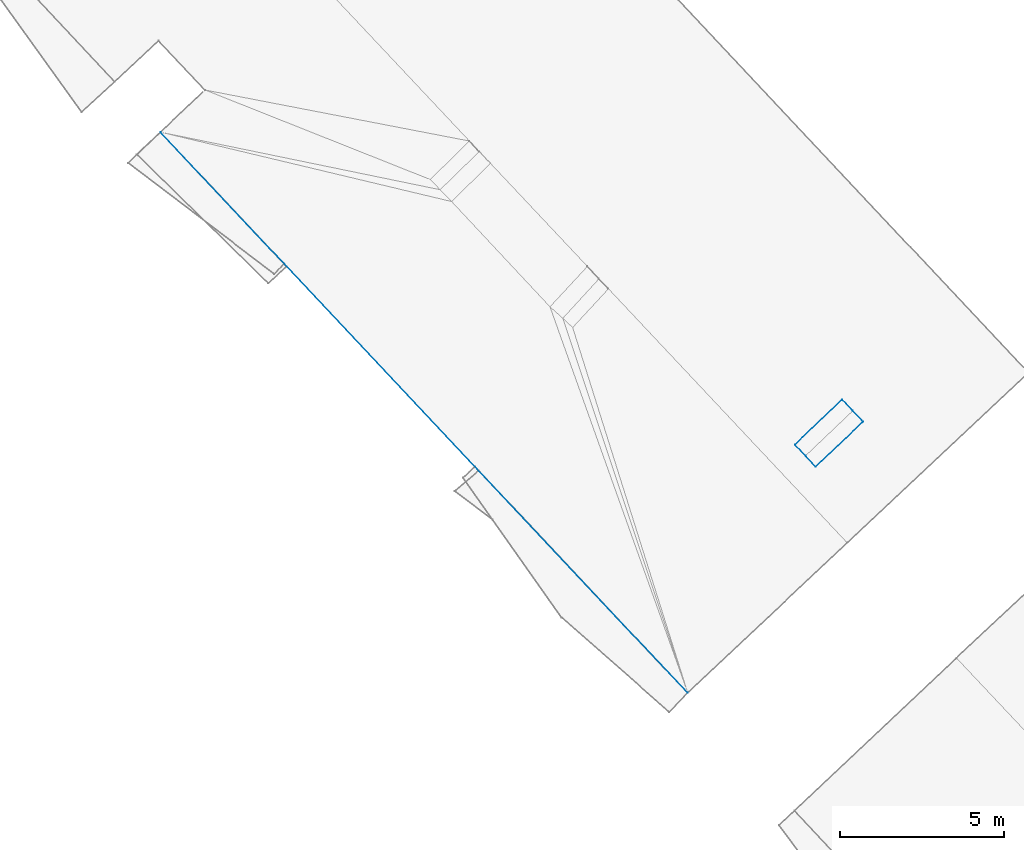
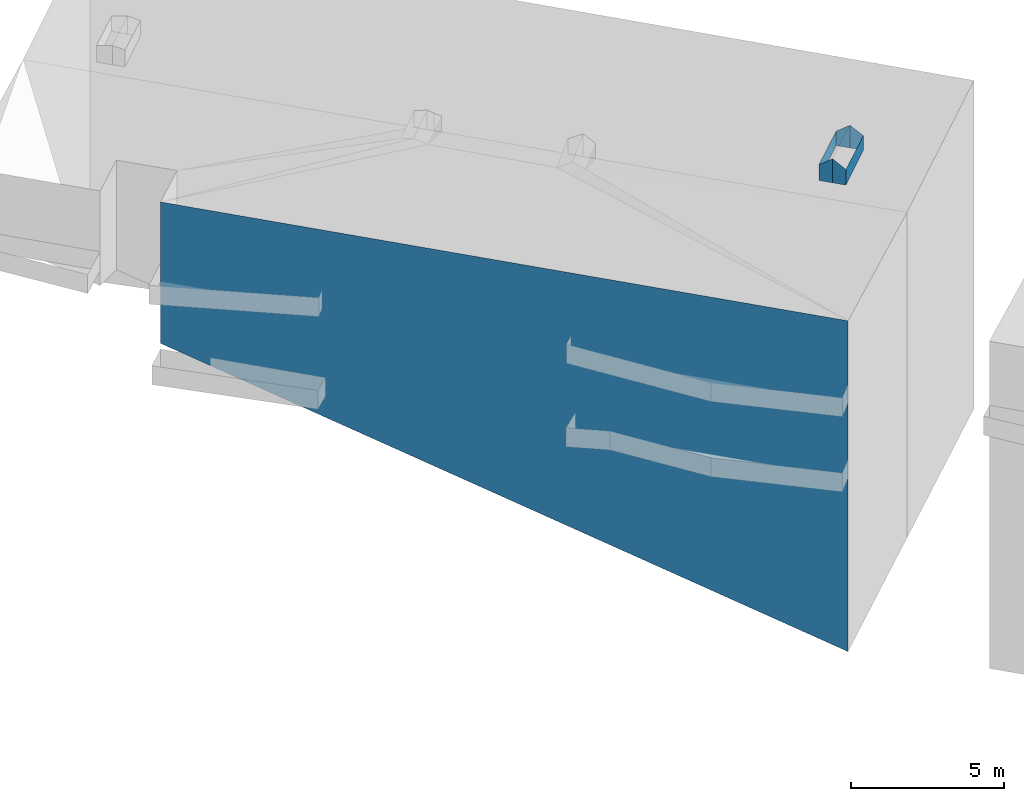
# Not in any storey, part 50 of 136: 7 walls.
"""IFC2X3 building model written with IfcOpenShell, lengths in metres."""

from ifc_helpers import new_model, entity, si_unit, converted_unit, origin, place, context, subcontext, project, spatial, face_set, surface_model, element, save


model = new_model("IFC2X3")

# Units and contexts
model_context = context("Model", 3, precision=1e-05, world=origin())
body_context = subcontext(model_context, "Body", "Model", "MODEL_VIEW")
ifc_project = project(units=[converted_unit("PLANEANGLEUNIT", "DEGREE", entity("IfcRatioMeasure", 0.0174532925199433), si_unit("PLANEANGLEUNIT", "RADIAN"), dimensions=[0, 0, 0, 0, 0, 0, 0]), si_unit("AREAUNIT", "SQUARE_METRE"), si_unit("LENGTHUNIT", "METRE")], contexts=[model_context])

# Site, building
site_placement = place(None, origin())
site = spatial("IfcSite", under=ifc_project, at=site_placement, Name="_site", CompositionType="ELEMENT")
building_placement = place(site_placement, origin())
building = spatial("IfcBuilding", under=site, at=building_placement, Name="_building", CompositionType="ELEMENT")

# Walls
wall_1_placement = place(building_placement, origin())
element("IfcWall", 1, at=wall_1_placement, inside=building, Name="Wall", context=body_context, shape_type="SurfaceModel", body=[
    surface_model("IfcFaceBasedSurfaceModel", [(21.48, 118.42, 51.29), (20.03, 117.05, 51.29), (20.03, 117.05, 50.661), (21.48, 118.42, 50.718)], [face_set([[[0, 1, 2, 3]]])]),
])
wall_2_placement = place(building_placement, origin())
element("IfcWall", 2, at=wall_2_placement, inside=building, Name="Wall", context=body_context, shape_type="SurfaceModel", body=[
    surface_model("IfcFaceBasedSurfaceModel", [(19.72, 117.38, 51.62), (19.4, 117.72, 51.29), (19.4, 117.72, 50.661), (19.72, 117.38, 50.661)], [face_set([[[0, 1, 2, 3]]])]),
])
wall_3_placement = place(building_placement, origin())
element("IfcWall", 3, at=wall_3_placement, inside=building, Name="Wall", context=body_context, shape_type="SurfaceModel", body=[
    surface_model("IfcFaceBasedSurfaceModel", [(19.4, 117.72, 51.29), (20.84, 119.09, 51.29), (20.84, 119.09, 50.719), (19.4, 117.72, 50.661)], [face_set([[[0, 1, 2, 3]]])]),
])
wall_4_placement = place(building_placement, origin())
element("IfcWall", 4, at=wall_4_placement, inside=building, Name="Wall", context=body_context, shape_type="SurfaceModel", body=[
    surface_model("IfcFaceBasedSurfaceModel", [(20.84, 119.09, 51.29), (21.16, 118.75, 51.62), (21.16, 118.75, 50.718), (20.84, 119.09, 50.719)], [face_set([[[0, 1, 2, 3]]])]),
])
wall_5_placement = place(building_placement, origin())
element("IfcWall", 5, at=wall_5_placement, inside=building, Name="Wall", context=body_context, shape_type="SurfaceModel", body=[
    surface_model("IfcFaceBasedSurfaceModel", [(16.14, 110.17, 50.8), (0.11, 127.22, 50.8), (0.11, 127.22, 45.176), (16.14, 110.17, 37.638)], [face_set([[[0, 1, 2, 3]]])]),
])
wall_6_placement = place(building_placement, origin())
element("IfcWall", 6, at=wall_6_placement, inside=building, Name="Wall", context=body_context, shape_type="SurfaceModel", body=[
    surface_model("IfcFaceBasedSurfaceModel", [(21.16, 118.75, 51.62), (21.48, 118.42, 51.29), (21.48, 118.42, 50.718), (21.16, 118.75, 50.718)], [face_set([[[0, 1, 2, 3]]])]),
])
wall_7_placement = place(building_placement, origin())
element("IfcWall", 7, at=wall_7_placement, inside=building, Name="Wall", context=body_context, shape_type="SurfaceModel", body=[
    surface_model("IfcFaceBasedSurfaceModel", [(20.03, 117.05, 51.29), (19.72, 117.38, 51.62), (19.72, 117.38, 50.661), (20.03, 117.05, 50.661)], [face_set([[[0, 1, 2, 3]]])]),
])

save(model, "model.ifc")
